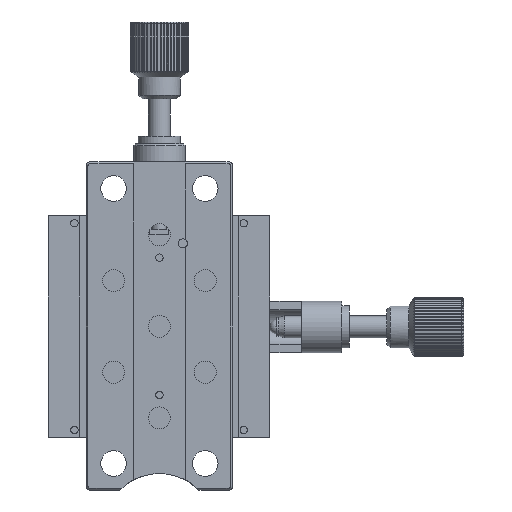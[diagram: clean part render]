
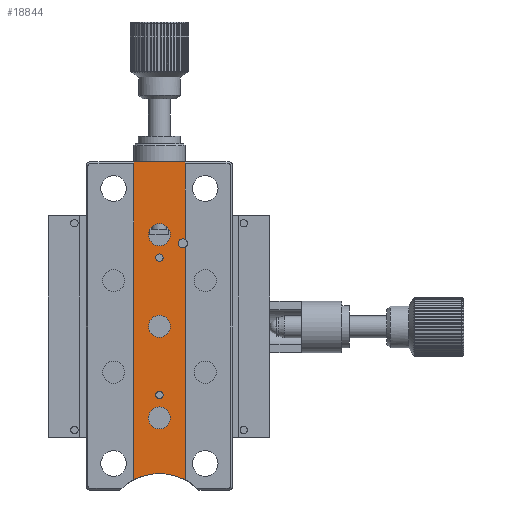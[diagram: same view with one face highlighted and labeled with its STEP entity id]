
A CAD part, front view. The second image highlights one B-rep face of the part: STEP entity #18844.
In plain terms, the highlighted planar face has unit normal (0, -1, 0).
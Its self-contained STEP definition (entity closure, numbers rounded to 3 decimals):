
#5 = DIRECTION ( 'NONE',  ( 0., 0., 1. ) ) ;
#14 = CARTESIAN_POINT ( 'NONE',  ( -15.045, -15.177, -74.8 ) ) ;
#619 = CARTESIAN_POINT ( 'NONE',  ( -1.045, -15.177, -74.8 ) ) ;
#620 = DIRECTION ( 'NONE',  ( 0., 0., 1. ) ) ;
#751 = CARTESIAN_POINT ( 'NONE',  ( -8.045, -15.177, -55.15 ) ) ;
#752 = DIRECTION ( 'NONE',  ( 0., 1., 0. ) ) ;
#753 = DIRECTION ( 'NONE',  ( -1., 0., 0. ) ) ;
#945 = EDGE_CURVE ( 'NONE', #9167, #8612, #1444, .T. ) ;
#963 = CARTESIAN_POINT ( 'NONE',  ( -1.045, -15.177, -8.597 ) ) ;
#979 = CARTESIAN_POINT ( 'NONE',  ( -1.045, -15.177, -6.403 ) ) ;
#1009 = EDGE_CURVE ( 'NONE', #8612, #8621, #1392, .T. ) ;
#1101 = CIRCLE ( 'NONE', #12707, 3. ) ;
#1178 = VECTOR ( 'NONE', #620, 1000. ) ;
#1181 = LINE ( 'NONE', #619, #1178 ) ;
#1392 = CIRCLE ( 'NONE', #12657, 1.25 ) ;
#1434 = VECTOR ( 'NONE', #15210, 1000. ) ;
#1444 = LINE ( 'NONE', #15202, #1434 ) ;
#4099 = DIRECTION ( 'NONE',  ( 0., 1., 0. ) ) ;
#4106 = PLANE ( 'NONE',  #15052 ) ;
#4107 = CARTESIAN_POINT ( 'NONE',  ( -15.045, -15.177, -74.8 ) ) ;
#4109 = DIRECTION ( 'NONE',  ( -1., 0., 0. ) ) ;
#4419 = CARTESIAN_POINT ( 'NONE',  ( -11.045, -15.177, -55.15 ) ) ;
#4473 = CARTESIAN_POINT ( 'NONE',  ( -11.045, -15.177, -30.15 ) ) ;
#4475 = CARTESIAN_POINT ( 'NONE',  ( -11.045, -15.177, -5.15 ) ) ;
#4480 = CARTESIAN_POINT ( 'NONE',  ( -7.045, -15.177, -48.9 ) ) ;
#4487 = CARTESIAN_POINT ( 'NONE',  ( -7.045, -15.177, -11.4 ) ) ;
#5637 = EDGE_CURVE ( 'NONE', #8621, #8664, #1181, .T. ) ;
#5695 = EDGE_CURVE ( 'NONE', #22111, #22111, #1101, .T. ) ;
#6424 = CARTESIAN_POINT ( 'NONE',  ( -8.045, -15.177, -30.15 ) ) ;
#6426 = DIRECTION ( 'NONE',  ( 0., 1., 0. ) ) ;
#6428 = DIRECTION ( 'NONE',  ( -1., 0., 0. ) ) ;
#6508 = CARTESIAN_POINT ( 'NONE',  ( -8.045, -15.177, -5.15 ) ) ;
#6510 = DIRECTION ( 'NONE',  ( 0., 1., 0. ) ) ;
#6512 = DIRECTION ( 'NONE',  ( -1., 0., 0. ) ) ;
#6606 = CARTESIAN_POINT ( 'NONE',  ( -8.045, -15.177, -85.5 ) ) ;
#6607 = DIRECTION ( 'NONE',  ( 0., 1., 0. ) ) ;
#6608 = DIRECTION ( 'NONE',  ( -1., 0., 0. ) ) ;
#6666 = CARTESIAN_POINT ( 'NONE',  ( -8.045, -15.177, -48.9 ) ) ;
#6668 = DIRECTION ( 'NONE',  ( 0., -1., 0. ) ) ;
#6669 = DIRECTION ( 'NONE',  ( 1., 0., 0. ) ) ;
#7032 = CARTESIAN_POINT ( 'NONE',  ( -8.045, -15.177, -11.4 ) ) ;
#7033 = DIRECTION ( 'NONE',  ( 0., -1., 0. ) ) ;
#7034 = DIRECTION ( 'NONE',  ( 1., 0., 0. ) ) ;
#7070 = CARTESIAN_POINT ( 'NONE',  ( -15.045, -15.177, 14.7 ) ) ;
#7071 = DIRECTION ( 'NONE',  ( -1., 0., 0. ) ) ;
#7699 = CARTESIAN_POINT ( 'NONE',  ( -1.045, -15.177, 14.7 ) ) ;
#8181 = CARTESIAN_POINT ( 'NONE',  ( -15.045, -15.177, -72.008 ) ) ;
#8452 = ORIENTED_EDGE ( 'NONE', *, *, #16523, .F. ) ;
#8454 = ORIENTED_EDGE ( 'NONE', *, *, #15235, .F. ) ;
#8455 = ORIENTED_EDGE ( 'NONE', *, *, #14378, .T. ) ;
#8456 = ORIENTED_EDGE ( 'NONE', *, *, #14361, .T. ) ;
#8458 = ORIENTED_EDGE ( 'NONE', *, *, #5695, .T. ) ;
#8459 = ORIENTED_EDGE ( 'NONE', *, *, #14396, .T. ) ;
#8461 = ORIENTED_EDGE ( 'NONE', *, *, #10920, .F. ) ;
#8463 = ORIENTED_EDGE ( 'NONE', *, *, #16539, .T. ) ;
#8464 = ORIENTED_EDGE ( 'NONE', *, *, #5637, .T. ) ;
#8465 = ORIENTED_EDGE ( 'NONE', *, *, #1009, .T. ) ;
#8466 = ORIENTED_EDGE ( 'NONE', *, *, #945, .T. ) ;
#8612 = VERTEX_POINT ( 'NONE', #963 ) ;
#8621 = VERTEX_POINT ( 'NONE', #979 ) ;
#8664 = VERTEX_POINT ( 'NONE', #7699 ) ;
#8946 = VERTEX_POINT ( 'NONE', #8181 ) ;
#9167 = VERTEX_POINT ( 'NONE', #17467 ) ;
#9537 = VERTEX_POINT ( 'NONE', #16038 ) ;
#10920 = EDGE_CURVE ( 'NONE', #8946, #9537, #21335, .T. ) ;
#12657 = AXIS2_PLACEMENT_3D ( 'NONE', #14156, #14157, #14158 ) ;
#12707 = AXIS2_PLACEMENT_3D ( 'NONE', #751, #752, #753 ) ;
#14156 = CARTESIAN_POINT ( 'NONE',  ( -1.645, -15.177, -7.5 ) ) ;
#14157 = DIRECTION ( 'NONE',  ( 0., 1., 0. ) ) ;
#14158 = DIRECTION ( 'NONE',  ( -1., 0., 0. ) ) ;
#14361 = EDGE_CURVE ( 'NONE', #22057, #22057, #21328, .T. ) ;
#14378 = EDGE_CURVE ( 'NONE', #22055, #22055, #21277, .T. ) ;
#14396 = EDGE_CURVE ( 'NONE', #8946, #9167, #21218, .T. ) ;
#15052 = AXIS2_PLACEMENT_3D ( 'NONE', #4107, #4099, #4109 ) ;
#15202 = CARTESIAN_POINT ( 'NONE',  ( -1.045, -15.177, -74.8 ) ) ;
#15210 = DIRECTION ( 'NONE',  ( 0., 0., 1. ) ) ;
#15235 = EDGE_CURVE ( 'NONE', #22050, #22050, #21186, .T. ) ;
#15516 = AXIS2_PLACEMENT_3D ( 'NONE', #6424, #6426, #6428 ) ;
#15522 = AXIS2_PLACEMENT_3D ( 'NONE', #6508, #6510, #6512 ) ;
#15530 = AXIS2_PLACEMENT_3D ( 'NONE', #6606, #6607, #6608 ) ;
#15534 = AXIS2_PLACEMENT_3D ( 'NONE', #6666, #6668, #6669 ) ;
#15547 = AXIS2_PLACEMENT_3D ( 'NONE', #7032, #7033, #7034 ) ;
#16038 = CARTESIAN_POINT ( 'NONE',  ( -15.045, -15.177, 14.7 ) ) ;
#16323 = EDGE_LOOP ( 'NONE', ( #8456 ) ) ;
#16334 = EDGE_LOOP ( 'NONE', ( #8452 ) ) ;
#16377 = EDGE_LOOP ( 'NONE', ( #8458 ) ) ;
#16381 = EDGE_LOOP ( 'NONE', ( #8466, #8465, #8464, #8463, #8461, #8459 ) ) ;
#16410 = EDGE_LOOP ( 'NONE', ( #8454 ) ) ;
#16484 = EDGE_LOOP ( 'NONE', ( #8455 ) ) ;
#16523 = EDGE_CURVE ( 'NONE', #22043, #22043, #21068, .T. ) ;
#16539 = EDGE_CURVE ( 'NONE', #8664, #9537, #21016, .T. ) ;
#17467 = CARTESIAN_POINT ( 'NONE',  ( -1.045, -15.177, -72.008 ) ) ;
#18844 = ADVANCED_FACE ( 'NONE', ( #22287, #22284, #22286, #22285, #22289, #22283 ), #4106, .F. ) ;
#21010 = VECTOR ( 'NONE', #7071, 1000. ) ;
#21016 = LINE ( 'NONE', #7070, #21010 ) ;
#21068 = CIRCLE ( 'NONE', #15547, 1. ) ;
#21186 = CIRCLE ( 'NONE', #15534, 1. ) ;
#21218 = CIRCLE ( 'NONE', #15530, 15.2 ) ;
#21277 = CIRCLE ( 'NONE', #15522, 3. ) ;
#21325 = VECTOR ( 'NONE', #5, 1000. ) ;
#21328 = CIRCLE ( 'NONE', #15516, 3. ) ;
#21335 = LINE ( 'NONE', #14, #21325 ) ;
#22043 = VERTEX_POINT ( 'NONE', #4487 ) ;
#22050 = VERTEX_POINT ( 'NONE', #4480 ) ;
#22055 = VERTEX_POINT ( 'NONE', #4475 ) ;
#22057 = VERTEX_POINT ( 'NONE', #4473 ) ;
#22111 = VERTEX_POINT ( 'NONE', #4419 ) ;
#22283 = FACE_BOUND ( 'NONE', #16334, .T. ) ;
#22284 = FACE_BOUND ( 'NONE', #16377, .T. ) ;
#22285 = FACE_BOUND ( 'NONE', #16484, .T. ) ;
#22286 = FACE_BOUND ( 'NONE', #16323, .T. ) ;
#22287 = FACE_OUTER_BOUND ( 'NONE', #16381, .T. ) ;
#22289 = FACE_BOUND ( 'NONE', #16410, .T. ) ;
